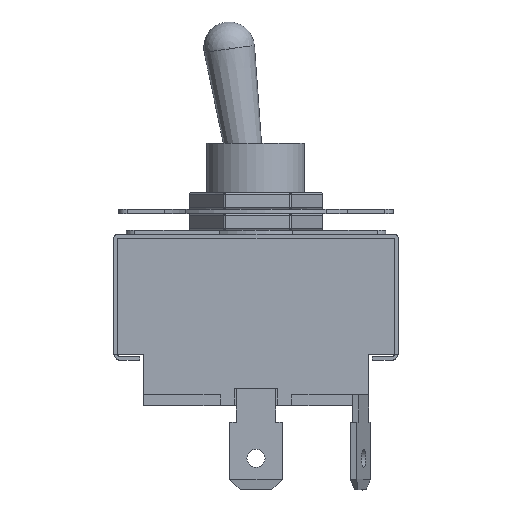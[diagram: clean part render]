
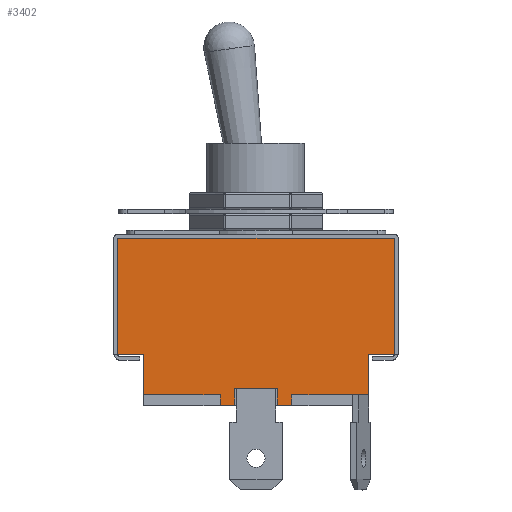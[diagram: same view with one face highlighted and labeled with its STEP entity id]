
A CAD part, top view. The second image highlights one B-rep face of the part: STEP entity #3402.
In plain terms, the highlighted planar face has unit normal (0, 0, 1).
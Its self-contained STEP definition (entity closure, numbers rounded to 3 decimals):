
#162=PLANE('',#3721);
#300=FACE_OUTER_BOUND('',#503,.T.);
#503=EDGE_LOOP('',(#2624,#2625,#2626,#2627,#2628,#2629,#2630,#2631,#2632,
#2633,#2634,#2635,#2636,#2637,#2638,#2639));
#759=LINE('',#5220,#1145);
#761=LINE('',#5226,#1147);
#769=LINE('',#5240,#1155);
#773=LINE('',#5247,#1159);
#782=LINE('',#5264,#1168);
#789=LINE('',#5277,#1175);
#818=LINE('',#5345,#1204);
#820=LINE('',#5351,#1206);
#824=LINE('',#5359,#1210);
#826=LINE('',#5363,#1212);
#827=LINE('',#5365,#1213);
#828=LINE('',#5366,#1214);
#829=LINE('',#5367,#1215);
#830=LINE('',#5369,#1216);
#831=LINE('',#5370,#1217);
#832=LINE('',#5371,#1218);
#1145=VECTOR('',#4174,10.);
#1147=VECTOR('',#4178,10.);
#1155=VECTOR('',#4190,10.);
#1159=VECTOR('',#4194,10.);
#1168=VECTOR('',#4207,1000.);
#1175=VECTOR('',#4216,1000.);
#1204=VECTOR('',#4277,1000.);
#1206=VECTOR('',#4281,1000.);
#1210=VECTOR('',#4287,1000.);
#1212=VECTOR('',#4291,1000.);
#1213=VECTOR('',#4292,1000.);
#1214=VECTOR('',#4293,1000.);
#1215=VECTOR('',#4294,1000.);
#1216=VECTOR('',#4295,1000.);
#1217=VECTOR('',#4296,1000.);
#1218=VECTOR('',#4297,1000.);
#1599=VERTEX_POINT('',#5216);
#1600=VERTEX_POINT('',#5218);
#1601=VERTEX_POINT('',#5222);
#1603=VERTEX_POINT('',#5225);
#1607=VERTEX_POINT('',#5239);
#1610=VERTEX_POINT('',#5245);
#1616=VERTEX_POINT('',#5263);
#1621=VERTEX_POINT('',#5275);
#1642=VERTEX_POINT('',#5339);
#1644=VERTEX_POINT('',#5343);
#1645=VERTEX_POINT('',#5347);
#1647=VERTEX_POINT('',#5350);
#1650=VERTEX_POINT('',#5357);
#1651=VERTEX_POINT('',#5362);
#1652=VERTEX_POINT('',#5364);
#1653=VERTEX_POINT('',#5368);
#1945=EDGE_CURVE('',#1599,#1600,#759,.T.);
#1947=EDGE_CURVE('',#1601,#1603,#761,.T.);
#1955=EDGE_CURVE('',#1603,#1607,#769,.T.);
#1959=EDGE_CURVE('',#1610,#1600,#773,.T.);
#1968=EDGE_CURVE('',#1599,#1616,#782,.T.);
#1975=EDGE_CURVE('',#1621,#1601,#789,.T.);
#2008=EDGE_CURVE('',#1644,#1642,#818,.T.);
#2010=EDGE_CURVE('',#1645,#1647,#820,.T.);
#2014=EDGE_CURVE('',#1644,#1650,#824,.T.);
#2016=EDGE_CURVE('',#1651,#1610,#826,.T.);
#2017=EDGE_CURVE('',#1652,#1651,#827,.T.);
#2018=EDGE_CURVE('',#1652,#1607,#828,.T.);
#2019=EDGE_CURVE('',#1621,#1642,#829,.T.);
#2020=EDGE_CURVE('',#1650,#1653,#830,.T.);
#2021=EDGE_CURVE('',#1647,#1653,#831,.T.);
#2022=EDGE_CURVE('',#1616,#1645,#832,.T.);
#2624=ORIENTED_EDGE('',*,*,#2016,.F.);
#2625=ORIENTED_EDGE('',*,*,#2017,.F.);
#2626=ORIENTED_EDGE('',*,*,#2018,.T.);
#2627=ORIENTED_EDGE('',*,*,#1955,.F.);
#2628=ORIENTED_EDGE('',*,*,#1947,.F.);
#2629=ORIENTED_EDGE('',*,*,#1975,.F.);
#2630=ORIENTED_EDGE('',*,*,#2019,.T.);
#2631=ORIENTED_EDGE('',*,*,#2008,.F.);
#2632=ORIENTED_EDGE('',*,*,#2014,.T.);
#2633=ORIENTED_EDGE('',*,*,#2020,.T.);
#2634=ORIENTED_EDGE('',*,*,#2021,.F.);
#2635=ORIENTED_EDGE('',*,*,#2010,.F.);
#2636=ORIENTED_EDGE('',*,*,#2022,.F.);
#2637=ORIENTED_EDGE('',*,*,#1968,.F.);
#2638=ORIENTED_EDGE('',*,*,#1945,.T.);
#2639=ORIENTED_EDGE('',*,*,#1959,.F.);
#3402=ADVANCED_FACE('',(#300),#162,.F.);
#3721=AXIS2_PLACEMENT_3D('',#5361,#4289,#4290);
#4174=DIRECTION('',(0.,-1.,0.));
#4178=DIRECTION('',(0.,-1.,0.));
#4190=DIRECTION('',(-1.,0.,0.));
#4194=DIRECTION('',(-1.,0.,0.));
#4207=DIRECTION('',(-1.,0.,0.));
#4216=DIRECTION('',(-1.,0.,0.));
#4277=DIRECTION('',(-1.,0.,0.));
#4281=DIRECTION('',(-1.,0.,0.));
#4287=DIRECTION('',(0.,1.,0.));
#4289=DIRECTION('center_axis',(0.,0.,-1.));
#4290=DIRECTION('ref_axis',(-1.,0.,0.));
#4291=DIRECTION('',(0.,-1.,0.));
#4292=DIRECTION('',(-1.,0.,0.));
#4293=DIRECTION('',(0.,-1.,0.));
#4294=DIRECTION('',(0.,1.,0.));
#4295=DIRECTION('',(-1.,0.,0.));
#4296=DIRECTION('',(0.,1.,0.));
#4297=DIRECTION('',(0.,1.,0.));
#5216=CARTESIAN_POINT('',(-4.318,-18.796,9.525));
#5218=CARTESIAN_POINT('',(-4.318,-20.066,9.525));
#5220=CARTESIAN_POINT('',(-4.318,-18.796,9.525));
#5222=CARTESIAN_POINT('',(4.318,-18.796,9.525));
#5225=CARTESIAN_POINT('',(4.318,-20.066,9.525));
#5226=CARTESIAN_POINT('',(4.318,-18.796,9.525));
#5239=CARTESIAN_POINT('',(2.54,-20.066,9.525));
#5240=CARTESIAN_POINT('',(4.318,-20.066,9.525));
#5245=CARTESIAN_POINT('',(-2.54,-20.066,9.525));
#5247=CARTESIAN_POINT('',(-2.54,-20.066,9.525));
#5263=CARTESIAN_POINT('',(-13.494,-18.796,9.525));
#5264=CARTESIAN_POINT('',(13.494,-18.796,9.525));
#5275=CARTESIAN_POINT('',(13.494,-18.796,9.525));
#5277=CARTESIAN_POINT('',(13.494,-18.796,9.525));
#5339=CARTESIAN_POINT('',(13.494,-13.97,9.525));
#5343=CARTESIAN_POINT('',(16.637,-13.97,9.525));
#5345=CARTESIAN_POINT('',(16.637,-13.97,9.525));
#5347=CARTESIAN_POINT('',(-13.494,-13.97,9.525));
#5350=CARTESIAN_POINT('',(-16.637,-13.97,9.525));
#5351=CARTESIAN_POINT('',(16.637,-13.97,9.525));
#5357=CARTESIAN_POINT('',(16.637,0.,9.525));
#5359=CARTESIAN_POINT('',(16.637,-13.97,9.525));
#5361=CARTESIAN_POINT('Origin',(16.637,-13.97,9.525));
#5362=CARTESIAN_POINT('',(-2.54,-18.034,9.525));
#5363=CARTESIAN_POINT('',(-2.54,-18.034,9.525));
#5364=CARTESIAN_POINT('',(2.54,-18.034,9.525));
#5365=CARTESIAN_POINT('',(-2.54,-18.034,9.525));
#5366=CARTESIAN_POINT('',(2.54,-18.034,9.525));
#5367=CARTESIAN_POINT('',(13.494,-18.796,9.525));
#5368=CARTESIAN_POINT('',(-16.637,0.,9.525));
#5369=CARTESIAN_POINT('',(16.637,0.,9.525));
#5370=CARTESIAN_POINT('',(-16.637,-13.97,9.525));
#5371=CARTESIAN_POINT('',(-13.494,-18.796,9.525));
